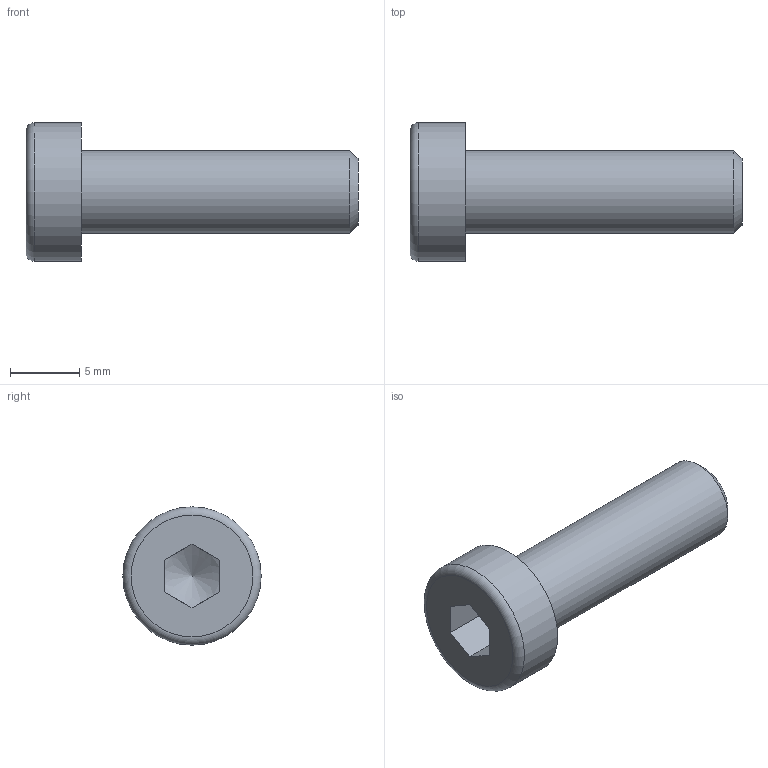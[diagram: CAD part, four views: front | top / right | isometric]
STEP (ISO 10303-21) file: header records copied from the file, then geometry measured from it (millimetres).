
FILE_DESCRIPTION((''),'2;1');
FILE_NAME('C:\Documents and Settings\Administrator\My Documents\Andys Backup Data\ANDY''S INVENTOR\INVENTOR LIBRARIES\MINITEC INVENTOR LIBRARIES\FASTENING ELEMENTS\SCREWS CAP STAINLESS\step\21.1240_1 M6X20 SS.stp','2010-06-30T09:07:17',('Administrator'),(''),'Autodesk Inventor 2009','Autodesk Inventor 2009','');
FILE_SCHEMA(('CONFIG_CONTROL_DESIGN'));
Length unit declared in the file: millimetre
Products named in the file (1): 21.1240/1  M6 x 20 SS
Bounding box: 24 x 10 x 10 mm (x, y, z)
Volume: 825.2 mm3; surface area: 689.6 mm2
Topology: 1 solids, 1 shells, 14 faces, 30 edges, 19 vertices
Faces by surface type: plane 9, cone 2, cylinder 2, torus 1
Full cylindrical faces by diameter (mm): 6 x1, 10 x1
Entity records: 353 total; most frequent: CARTESIAN_POINT 69, DIRECTION 54, ORIENTED_EDGE 48, EDGE_CURVE 24, AXIS2_PLACEMENT_3D 21, EDGE_LOOP 20, VERTEX_POINT 18, FACE_OUTER_BOUND 14
